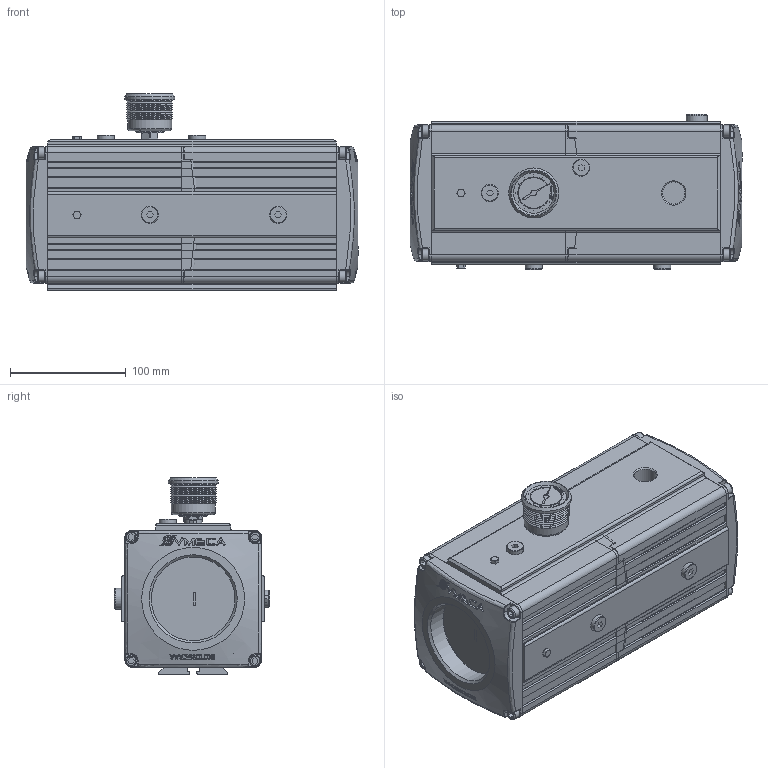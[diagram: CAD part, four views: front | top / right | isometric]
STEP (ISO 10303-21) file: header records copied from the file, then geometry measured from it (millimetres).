
FILE_DESCRIPTION( ( 'Unknown' ), '1' );
FILE_NAME( 'C:/Documents and Settings/Administrator/官帕 拳搁/3D Dimension/MPM303X5-02.stp', 'Unknown', ( 'Unknown' ), ( 'Unknown' ), 'PSStep 10.0', 'Unknown', ' ' );
FILE_SCHEMA( ( 'AUTOMOTIVE_DESIGN { 1 0 10303 214 1 1 1 1 }' ) );
Length unit declared in the file: millimetre
Products named in the file (12): Assem1; M6-Bolt_1; END CAP-212_1; VTP-M5_1; red_1; VTP18_1; VTP14_1; END CAP-112_1; Vacuum Gauge_1; Body(re1)(dim); VTP-M5; VTP18
Bounding box: 287 x 134 x 169.5 mm (x, y, z)
Surface area: 661900.8 mm2
Topology: 38 solids, 38 shells, 3212 faces, 8163 edges, 5236 vertices
Faces by surface type: plane 1865, cylinder 831, cone 193, sphere 96, bspline 96, extrusion 84, torus 43, revolution 4
Full cylindrical faces by diameter (mm): 0.274 x2, 0.884 x4, 1.008 x9, 4.075 x4, 4.2 x20, 4.552 x4, 6 x9, 6.337 x4, 6.5 x16, 6.8 x8, 8.8 x10, 9.6 x2, 9.8 x6, 10 x9, 11.9 x2, 12.7 x2, 14.8 x6, 18.2 x2, 19.2 x2, 23 x2, 24.6 x2, 38 x2, 43.2 x2, 44.8 x2, 72.2 x2
Entity records: 62687 total; most frequent: CARTESIAN_POINT 14664, DIRECTION 7294, ORIENTED_EDGE 7276, EDGE_CURVE 3638, AXIS2_PLACEMENT_3D 2520, VERTEX_POINT 2414, VECTOR 2252, LINE 2210
